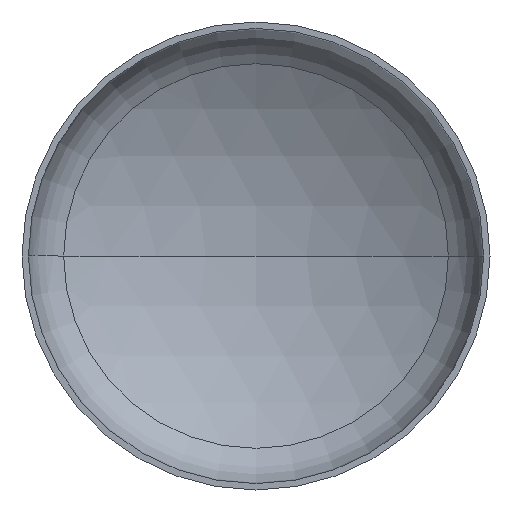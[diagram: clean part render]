
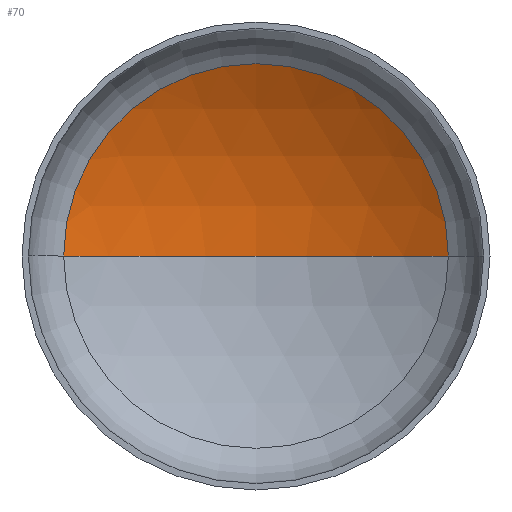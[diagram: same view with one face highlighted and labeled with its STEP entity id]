
A CAD part, front view. The second image highlights one B-rep face of the part: STEP entity #70.
In plain terms, the highlighted spherical face has radius 175 mm.
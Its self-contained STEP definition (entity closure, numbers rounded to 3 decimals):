
#2 = VERTEX_POINT ( 'NONE', #53 ) ;
#25 = DIRECTION ( 'NONE',  ( 0., 0., 1. ) ) ;
#27 = CARTESIAN_POINT ( 'NONE',  ( 0., -100.903, 0. ) ) ;
#43 = CARTESIAN_POINT ( 'NONE',  ( 90.044, 49.154, 0. ) ) ;
#50 = EDGE_LOOP ( 'NONE', ( #217, #313, #378 ) ) ;
#52 = AXIS2_PLACEMENT_3D ( 'NONE', #245, #25, #126 ) ;
#53 = CARTESIAN_POINT ( 'NONE',  ( 0., 74.097, 0. ) ) ;
#54 = AXIS2_PLACEMENT_3D ( 'NONE', #27, #269, #78 ) ;
#55 = AXIS2_PLACEMENT_3D ( 'NONE', #178, #331, #148 ) ;
#63 = VERTEX_POINT ( 'NONE', #43 ) ;
#70 = ADVANCED_FACE ( 'NONE', ( #202 ), #117, .F. ) ;
#74 = AXIS2_PLACEMENT_3D ( 'NONE', #208, #383, #241 ) ;
#78 = DIRECTION ( 'NONE',  ( -1., 0., 0. ) ) ;
#104 = EDGE_CURVE ( 'NONE', #63, #401, #256, .T. ) ;
#105 = EDGE_CURVE ( 'NONE', #2, #63, #179, .T. ) ;
#107 = EDGE_CURVE ( 'NONE', #2, #401, #380, .T. ) ;
#117 = SPHERICAL_SURFACE ( 'NONE', #74, 175. ) ;
#126 = DIRECTION ( 'NONE',  ( 1., 0., 0. ) ) ;
#130 = CARTESIAN_POINT ( 'NONE',  ( -90.044, 49.154, 0. ) ) ;
#148 = DIRECTION ( 'NONE',  ( 1., 0., 0. ) ) ;
#178 = CARTESIAN_POINT ( 'NONE',  ( 0., 49.154, 0. ) ) ;
#179 = CIRCLE ( 'NONE', #54, 175. ) ;
#202 = FACE_OUTER_BOUND ( 'NONE', #50, .T. ) ;
#208 = CARTESIAN_POINT ( 'NONE',  ( 0., -100.903, 0. ) ) ;
#217 = ORIENTED_EDGE ( 'NONE', *, *, #107, .F. ) ;
#241 = DIRECTION ( 'NONE',  ( -1., 0., 0. ) ) ;
#245 = CARTESIAN_POINT ( 'NONE',  ( 0., -100.903, 0. ) ) ;
#256 = CIRCLE ( 'NONE', #55, 90.044 ) ;
#269 = DIRECTION ( 'NONE',  ( 0., 0., -1. ) ) ;
#313 = ORIENTED_EDGE ( 'NONE', *, *, #105, .T. ) ;
#331 = DIRECTION ( 'NONE',  ( 0., -1., 0. ) ) ;
#378 = ORIENTED_EDGE ( 'NONE', *, *, #104, .T. ) ;
#380 = CIRCLE ( 'NONE', #52, 175. ) ;
#383 = DIRECTION ( 'NONE',  ( 0., 0., -1. ) ) ;
#401 = VERTEX_POINT ( 'NONE', #130 ) ;
